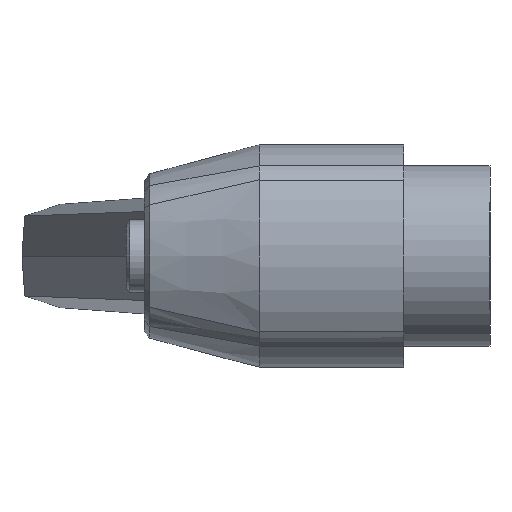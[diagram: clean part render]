
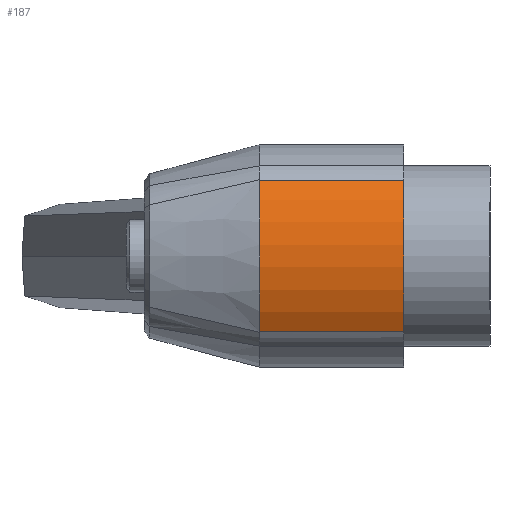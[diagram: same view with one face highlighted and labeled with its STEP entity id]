
A CAD part, left-side view. The second image highlights one B-rep face of the part: STEP entity #187.
In plain terms, the highlighted cylindrical face has radius 20.318 mm (diameter 40.637 mm), a partial arc.
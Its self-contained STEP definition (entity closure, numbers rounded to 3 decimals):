
#47 = AXIS2_PLACEMENT_3D ( 'NONE', #382, #911, #1397 ) ;
#60 = EDGE_CURVE ( 'NONE', #758, #1676, #72, .T. ) ;
#72 = CIRCLE ( 'NONE', #47, 20.318 ) ;
#187 = ADVANCED_FACE ( 'NONE', ( #1682 ), #1442, .T. ) ;
#261 = VECTOR ( 'NONE', #363, 1000. ) ;
#337 = VERTEX_POINT ( 'NONE', #1221 ) ;
#363 = DIRECTION ( 'NONE',  ( 0., 1., 0. ) ) ;
#382 = CARTESIAN_POINT ( 'NONE',  ( 4.818, 0., 0. ) ) ;
#387 = CARTESIAN_POINT ( 'NONE',  ( -12.555, 0., -10.536 ) ) ;
#405 = DIRECTION ( 'NONE',  ( 0., 0., -1. ) ) ;
#576 = VECTOR ( 'NONE', #995, 1000. ) ;
#598 = EDGE_LOOP ( 'NONE', ( #980, #1538, #1495, #741 ) ) ;
#614 = DIRECTION ( 'NONE',  ( 0., 1., 0. ) ) ;
#698 = EDGE_CURVE ( 'NONE', #1283, #337, #1602, .T. ) ;
#741 = ORIENTED_EDGE ( 'NONE', *, *, #1203, .T. ) ;
#758 = VERTEX_POINT ( 'NONE', #387 ) ;
#838 = LINE ( 'NONE', #1635, #576 ) ;
#877 = LINE ( 'NONE', #1239, #261 ) ;
#909 = CARTESIAN_POINT ( 'NONE',  ( 4.818, 20., 0. ) ) ;
#911 = DIRECTION ( 'NONE',  ( 0., 1., 0. ) ) ;
#919 = DIRECTION ( 'NONE',  ( 0., 0., -1. ) ) ;
#980 = ORIENTED_EDGE ( 'NONE', *, *, #698, .F. ) ;
#995 = DIRECTION ( 'NONE',  ( 0., -1., 0. ) ) ;
#1134 = CARTESIAN_POINT ( 'NONE',  ( -12.555, 0., 10.536 ) ) ;
#1203 = EDGE_CURVE ( 'NONE', #1676, #337, #877, .T. ) ;
#1215 = CARTESIAN_POINT ( 'NONE',  ( 4.818, 20., 0. ) ) ;
#1221 = CARTESIAN_POINT ( 'NONE',  ( -12.555, 20., 10.536 ) ) ;
#1239 = CARTESIAN_POINT ( 'NONE',  ( -12.555, 20., 10.536 ) ) ;
#1283 = VERTEX_POINT ( 'NONE', #1542 ) ;
#1397 = DIRECTION ( 'NONE',  ( 0., 0., 1. ) ) ;
#1442 = CYLINDRICAL_SURFACE ( 'NONE', #1543, 20.318 ) ;
#1495 = ORIENTED_EDGE ( 'NONE', *, *, #60, .T. ) ;
#1538 = ORIENTED_EDGE ( 'NONE', *, *, #1571, .T. ) ;
#1542 = CARTESIAN_POINT ( 'NONE',  ( -12.555, 20., -10.536 ) ) ;
#1543 = AXIS2_PLACEMENT_3D ( 'NONE', #1215, #1613, #919 ) ;
#1571 = EDGE_CURVE ( 'NONE', #1283, #758, #838, .T. ) ;
#1575 = AXIS2_PLACEMENT_3D ( 'NONE', #909, #614, #405 ) ;
#1602 = CIRCLE ( 'NONE', #1575, 20.318 ) ;
#1613 = DIRECTION ( 'NONE',  ( 0., -1., 0. ) ) ;
#1635 = CARTESIAN_POINT ( 'NONE',  ( -12.555, 20., -10.536 ) ) ;
#1676 = VERTEX_POINT ( 'NONE', #1134 ) ;
#1682 = FACE_OUTER_BOUND ( 'NONE', #598, .T. ) ;
